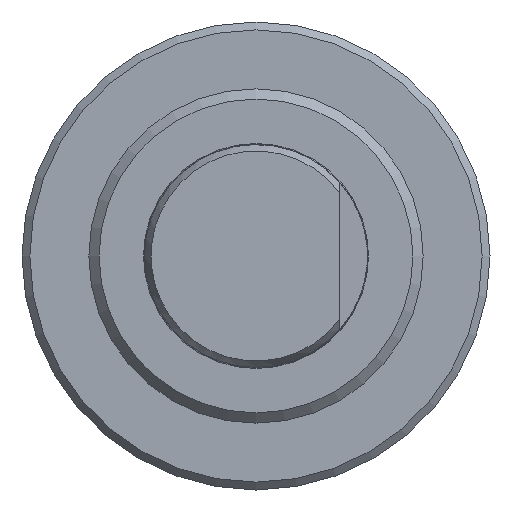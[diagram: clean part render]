
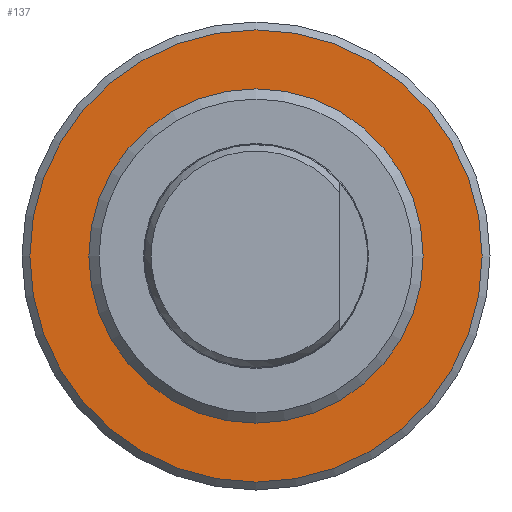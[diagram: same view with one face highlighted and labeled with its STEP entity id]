
A CAD part, left-side view. The second image highlights one B-rep face of the part: STEP entity #137.
In plain terms, the highlighted planar face has unit normal (-1, 0, 0).
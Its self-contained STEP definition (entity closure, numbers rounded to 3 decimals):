
#137 = ADVANCED_FACE( '', ( #304, #305 ), #306, .F. );
#304 = FACE_OUTER_BOUND( '', #471, .T. );
#305 = FACE_BOUND( '', #472, .T. );
#306 = PLANE( '', #473 );
#471 = EDGE_LOOP( '', ( #717 ) );
#472 = EDGE_LOOP( '', ( #718 ) );
#473 = AXIS2_PLACEMENT_3D( '', #719, #720, #721 );
#717 = ORIENTED_EDGE( '', *, *, #782, .F. );
#718 = ORIENTED_EDGE( '', *, *, #803, .T. );
#719 = CARTESIAN_POINT( '', ( 41., 15., 0. ) );
#720 = DIRECTION( '', ( 1., 0., 0. ) );
#721 = DIRECTION( '', ( 0., 0., -1. ) );
#782 = EDGE_CURVE( '', #892, #892, #893, .T. );
#803 = EDGE_CURVE( '', #920, #920, #921, .T. );
#892 = VERTEX_POINT( '', #1030 );
#893 = CIRCLE( '', #1031, 20.293 );
#920 = VERTEX_POINT( '', #1058 );
#921 = CIRCLE( '', #1059, 15. );
#1030 = CARTESIAN_POINT( '', ( 41., 0., -20.293 ) );
#1031 = AXIS2_PLACEMENT_3D( '', #1154, #1155, #1156 );
#1058 = CARTESIAN_POINT( '', ( 41., 0., -15. ) );
#1059 = AXIS2_PLACEMENT_3D( '', #1187, #1188, #1189 );
#1154 = CARTESIAN_POINT( '', ( 41., 0., 0. ) );
#1155 = DIRECTION( '', ( 1., 0., 0. ) );
#1156 = DIRECTION( '', ( 0., 0., -1. ) );
#1187 = CARTESIAN_POINT( '', ( 41., 0., 0. ) );
#1188 = DIRECTION( '', ( 1., 0., 0. ) );
#1189 = DIRECTION( '', ( 0., 0., -1. ) );
